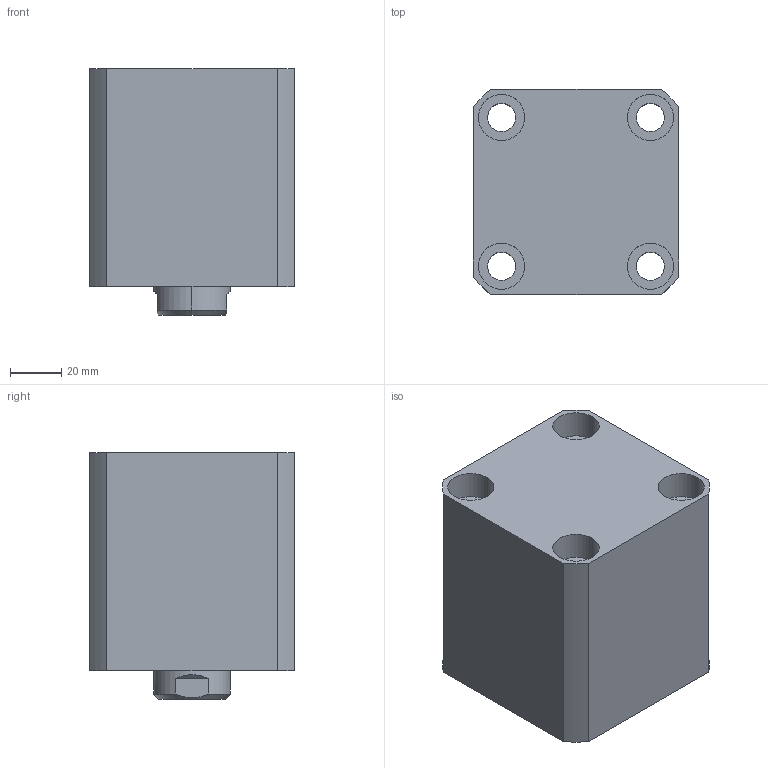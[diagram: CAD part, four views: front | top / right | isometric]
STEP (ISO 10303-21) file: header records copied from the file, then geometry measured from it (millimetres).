
FILE_DESCRIPTION (( 'STEP AP203' ), '1' );
FILE_NAME ('CHTB-SDMA50-25N.STEP', '2018-05-19T01:34:28', ( '' ), ( '' ), 'SwSTEP 2.0', 'SolidWorks 2015', '' );
FILE_SCHEMA (( 'CONFIG_CONTROL_DESIGN' ));
Length unit declared in the file: millimetre
Products named in the file (5): 活塞杆SDMA50-25N; 掛极SDMA50-25N; CHTB-SDMA50-25N; CHTM-SDMA50QG; M6
Assembly tree (5 placements, depth 2):
  CHTB-SDMA50-25N
    掛极SDMA50-25N
    活塞杆SDMA50-25N
    CHTM-SDMA50QG
    M6  x2
Bounding box: 80 x 80 x 96 mm (x, y, z)
Volume: 452138.1 mm3; surface area: 96845 mm2
Topology: 5 solids, 5 shells, 270 faces, 703 edges, 464 vertices
Faces by surface type: cylinder 139, plane 58, cone 31, bspline 26, torus 16
Entity records: 14133 total; most frequent: CARTESIAN_POINT 8131, ORIENTED_EDGE 1208, DIRECTION 1054, EDGE_CURVE 604, AXIS2_PLACEMENT_3D 433, VERTEX_POINT 403, EDGE_LOOP 277, FACE_OUTER_BOUND 235
